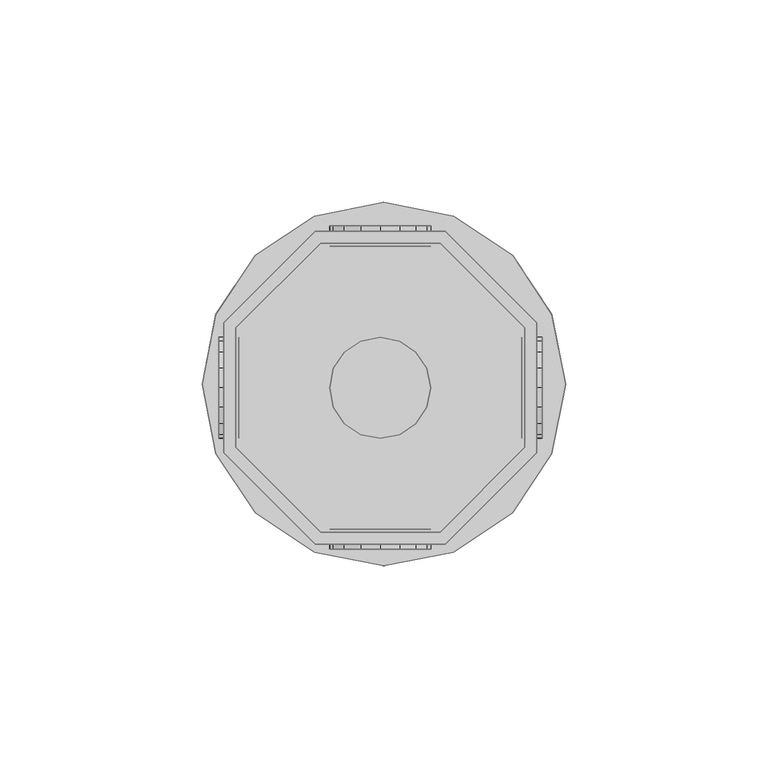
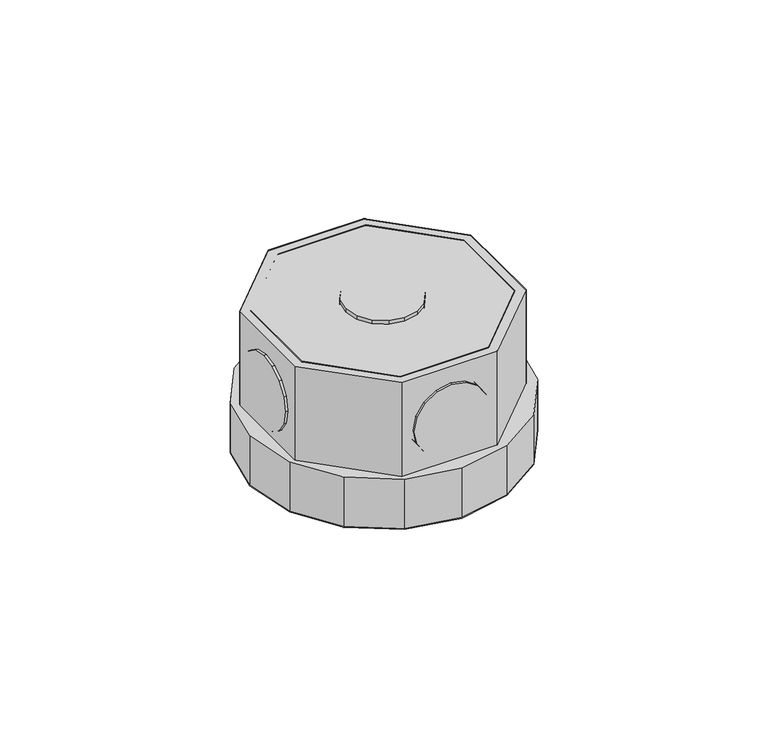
"""IFC4 building model written with IfcOpenShell, lengths in millimetres: light fixture geometry,  213070 :  213070."""

from ifc_helpers import new_model, si_unit, origin, place, context, project, spatial, triangles, source, transform, mapped, element, save


def light_fixture_4a75776b(model_context):
    return source(origin(), model_context, "Body", "Tessellation", [
        triangles([(5714.1000549, 12044.5996948, 2924.5999741), (5714.1000549, 12015.0003387, 2975.400071), (5714.1000549, 12015.0003387, 2924.5999741), (5714.1000549, 12044.5996948, 2975.400071), (5788.6001587, 12045.7996216, 2924.5999741), (5788.6001587, 12013.7004181, 2975.400071), (5788.6001587, 12013.7004181, 2924.5999741), (5788.6001587, 12045.7996216, 2975.400071), (5735.0999359, 11994.0004578, 2975.400071), (5735.0999359, 11994.0004578, 2924.5999741), (5765.8998001, 12068.5005615, 2924.5999741), (5765.8998001, 12068.5005615, 2975.400071), (5764.6998734, 11994.0004578, 2975.400071), (5764.6998734, 11994.0004578, 2924.5999741), (5733.8000153, 12068.5005615, 2924.5999741), (5733.8000153, 12068.5005615, 2975.400071), (5785.5997604, 12015.0003387, 2975.400071), (5785.5997604, 12015.0003387, 2924.5999741), (5711.100238, 12045.7996216, 2924.5999741), (5711.100238, 12045.7996216, 2975.400071), (5785.5997604, 12044.5996948, 2924.5999741), (5785.5997604, 12044.5996948, 2975.400071), (5711.100238, 12013.7004181, 2975.400071), (5711.100238, 12013.7004181, 2924.5999741), (5764.6998734, 12065.4995819, 2924.5999741), (5764.6998734, 12065.4995819, 2975.400071), (5733.8000153, 11990.9994781, 2975.400071), (5733.8000153, 11990.9994781, 2924.5999741), (5765.8998001, 11990.9994781, 2975.400071), (5735.0999359, 12065.4995819, 2975.400071), (5735.0999359, 12065.4995819, 2924.5999741), (5765.8998001, 11990.9994781, 2924.5999741), (5764.6998734, 11994.0004578, 2972.3999634), (5785.5997604, 12015.0003387, 2972.3999634), (5785.5997604, 12044.5996948, 2972.3999634), (5764.6998734, 12065.4995819, 2972.3999634), (5735.0999359, 12065.4995819, 2972.3999634), (5714.1000549, 12044.5996948, 2972.3999634), (5714.1000549, 12015.0003387, 2972.3999634), (5735.0999359, 11994.0004578, 2972.3999634), (5733.8000153, 11990.9994781, 2942.4000504), (5711.100238, 12013.7004181, 2942.4000504), (5711.100238, 12045.7996216, 2942.4000504), (5733.8000153, 12068.5005615, 2942.4000504), (5765.8998001, 12068.5005615, 2942.4000504), (5788.6001587, 12045.7996216, 2942.4000504), (5788.6001587, 12013.7004181, 2942.4000504), (5765.8998001, 11990.9994781, 2942.4000504), (5792.2999329, 12013.4004364, 2942.4000504), (5768.0002533, 11989.0995941, 2942.4000504), (5782.5999435, 11998.8001648, 2942.4000504), (5750.8001404, 11985.6998016, 2942.4000504), (5733.5000336, 11989.0995941, 2942.4000504), (5718.899762, 11998.8001648, 2942.4000504), (5709.1997726, 12013.4004364, 2942.4000504), (5705.7999802, 12030.7005432, 2942.4000504), (5709.1997726, 12047.8994934, 2942.4000504), (5733.5000336, 12072.2003357, 2942.4000504), (5718.899762, 12062.499765, 2942.4000504), (5795.7997192, 12030.7005432, 2942.4000504), (5792.2999329, 12047.8994934, 2942.4000504), (5782.5999435, 12062.499765, 2942.4000504), (5768.0002533, 12072.2003357, 2942.4000504), (5750.8001404, 12075.7001221, 2942.4000504), (5768.0002533, 11989.0995941, 2924.5999741), (5792.2999329, 12013.4004364, 2924.5999741), (5782.5999435, 11998.8001648, 2924.5999741), (5750.8001404, 11985.6998016, 2924.5999741), (5733.5000336, 11989.0995941, 2924.5999741), (5718.899762, 11998.8001648, 2924.5999741), (5709.1997726, 12013.4004364, 2924.5999741), (5705.7999802, 12030.7005432, 2924.5999741), (5709.1997726, 12047.8994934, 2924.5999741), (5733.5000336, 12072.2003357, 2924.5999741), (5718.899762, 12062.499765, 2924.5999741), (5795.7997192, 12030.7005432, 2924.5999741), (5792.2999329, 12047.8994934, 2924.5999741), (5782.5999435, 12062.499765, 2924.5999741), (5768.0002533, 12072.2003357, 2924.5999741), (5750.8001404, 12075.7001221, 2924.5999741), (5709.8997299, 12018.2001434, 2952.6000092), (5709.8997299, 12024.9997284, 2945.9001274), (5709.8997299, 12020.8999786, 2948.5999626), (5709.8997299, 12017.3001984, 2957.4000069), (5709.8997299, 12029.7994354, 2944.8998978), (5709.8997299, 12018.2001434, 2962.2000046), (5709.8997299, 12034.6003052, 2945.9001274), (5709.8997299, 12020.8999786, 2966.2000511), (5709.8997299, 12038.600061, 2948.5999626), (5709.8997299, 12024.9997284, 2968.8998863), (5709.8997299, 12041.2998962, 2952.6000092), (5709.8997299, 12029.7994354, 2969.900116), (5709.8997299, 12042.2998352, 2957.4000069), (5709.8997299, 12034.6003052, 2968.8998863), (5709.8997299, 12041.2998962, 2962.2000046), (5709.8997299, 12038.600061, 2966.2000511), (5714.9000061, 12024.9997284, 2945.9001274), (5714.9000061, 12018.2001434, 2952.6000092), (5714.9000061, 12020.8999786, 2948.5999626), (5714.9000061, 12029.7994354, 2944.8998978), (5714.9000061, 12017.3001984, 2957.4000069), (5714.9000061, 12034.6003052, 2945.9001274), (5714.9000061, 12018.2001434, 2962.2000046), (5714.9000061, 12038.600061, 2948.5999626), (5714.9000061, 12020.8999786, 2966.2000511), (5714.9000061, 12024.9997284, 2968.8998863), (5714.9000061, 12041.2998962, 2952.6000092), (5714.9000061, 12029.7994354, 2969.900116), (5714.9000061, 12042.2998352, 2957.4000069), (5714.9000061, 12034.6003052, 2968.8998863), (5714.9000061, 12041.2998962, 2962.2000046), (5714.9000061, 12038.600061, 2966.2000511), (5784.8998032, 12018.2001434, 2952.6000092), (5784.8998032, 12024.9997284, 2945.9001274), (5784.8998032, 12020.8999786, 2948.5999626), (5784.8998032, 12017.3001984, 2957.4000069), (5784.8998032, 12029.7994354, 2944.8998978), (5784.8998032, 12018.2001434, 2962.2000046), (5784.8998032, 12034.6003052, 2945.9001274), (5784.8998032, 12020.8999786, 2966.2000511), (5784.8998032, 12038.600061, 2948.5999626), (5784.8998032, 12024.9997284, 2968.8998863), (5784.8998032, 12041.2998962, 2952.6000092), (5784.8998032, 12029.7994354, 2969.900116), (5784.8998032, 12042.2998352, 2957.4000069), (5784.8998032, 12034.6003052, 2968.8998863), (5784.8998032, 12041.2998962, 2962.2000046), (5784.8998032, 12038.600061, 2966.2000511), (5789.9000793, 12024.9997284, 2945.9001274), (5789.9000793, 12018.2001434, 2952.6000092), (5789.9000793, 12020.8999786, 2948.5999626), (5789.9000793, 12029.7994354, 2944.8998978), (5789.9000793, 12017.3001984, 2957.4000069), (5789.9000793, 12034.6003052, 2945.9001274), (5789.9000793, 12018.2001434, 2962.2000046), (5789.9000793, 12038.600061, 2948.5999626), (5789.9000793, 12020.8999786, 2966.2000511), (5789.9000793, 12024.9997284, 2968.8998863), (5789.9000793, 12041.2998962, 2952.6000092), (5789.9000793, 12029.7994354, 2969.900116), (5789.9000793, 12042.2998352, 2957.4000069), (5789.9000793, 12034.6003052, 2968.8998863), (5789.9000793, 12041.2998962, 2962.2000046), (5789.9000793, 12038.600061, 2966.2000511), (5754.6999023, 11994.8004089, 2945.9001274), (5761.4000748, 11994.8004089, 2952.6000092), (5758.7002396, 11994.8004089, 2948.5999626), (5749.9001953, 11994.8004089, 2944.8998978), (5762.4000137, 11994.8004089, 2957.4000069), (5745.0999069, 11994.8004089, 2945.9001274), (5761.4000748, 11994.8004089, 2962.2000046), (5741.0001572, 11994.8004089, 2948.5999626), (5758.7002396, 11994.8004089, 2966.2000511), (5754.6999023, 11994.8004089, 2968.8998863), (5738.2997406, 11994.8004089, 2952.6000092), (5749.9001953, 11994.8004089, 2969.900116), (5737.3997955, 11994.8004089, 2957.4000069), (5745.0999069, 11994.8004089, 2968.8998863), (5738.2997406, 11994.8004089, 2962.2000046), (5741.0001572, 11994.8004089, 2966.2000511), (5761.4000748, 11989.7995514, 2952.6000092), (5754.6999023, 11989.7995514, 2945.9001274), (5758.7002396, 11989.7995514, 2948.5999626), (5762.4000137, 11989.7995514, 2957.4000069), (5749.9001953, 11989.7995514, 2944.8998978), (5761.4000748, 11989.7995514, 2962.2000046), (5745.0999069, 11989.7995514, 2945.9001274), (5758.7002396, 11989.7995514, 2966.2000511), (5741.0001572, 11989.7995514, 2948.5999626), (5754.6999023, 11989.7995514, 2968.8998863), (5738.2997406, 11989.7995514, 2952.6000092), (5749.9001953, 11989.7995514, 2969.900116), (5737.3997955, 11989.7995514, 2957.4000069), (5745.0999069, 11989.7995514, 2968.8998863), (5738.2997406, 11989.7995514, 2962.2000046), (5741.0001572, 11989.7995514, 2966.2000511), (5754.6999023, 12069.8004822, 2945.9001274), (5761.4000748, 12069.8004822, 2952.6000092), (5758.7002396, 12069.8004822, 2948.5999626), (5749.9001953, 12069.8004822, 2944.8998978), (5762.4000137, 12069.8004822, 2957.4000069), (5745.0999069, 12069.8004822, 2945.9001274), (5761.4000748, 12069.8004822, 2962.2000046), (5741.0001572, 12069.8004822, 2948.5999626), (5758.7002396, 12069.8004822, 2966.2000511), (5754.6999023, 12069.8004822, 2968.8998863), (5738.2997406, 12069.8004822, 2952.6000092), (5749.9001953, 12069.8004822, 2969.900116), (5737.3997955, 12069.8004822, 2957.4000069), (5745.0999069, 12069.8004822, 2968.8998863), (5738.2997406, 12069.8004822, 2962.2000046), (5741.0001572, 12069.8004822, 2966.2000511), (5761.4000748, 12064.7996246, 2952.6000092), (5754.6999023, 12064.7996246, 2945.9001274), (5758.7002396, 12064.7996246, 2948.5999626), (5762.4000137, 12064.7996246, 2957.4000069), (5749.9001953, 12064.7996246, 2944.8998978), (5761.4000748, 12064.7996246, 2962.2000046), (5745.0999069, 12064.7996246, 2945.9001274), (5758.7002396, 12064.7996246, 2966.2000511), (5741.0001572, 12064.7996246, 2948.5999626), (5754.6999023, 12064.7996246, 2968.8998863), (5738.2997406, 12064.7996246, 2952.6000092), (5749.9001953, 12064.7996246, 2969.900116), (5737.3997955, 12064.7996246, 2957.4000069), (5745.0999069, 12064.7996246, 2968.8998863), (5738.2997406, 12064.7996246, 2962.2000046), (5741.0001572, 12064.7996246, 2966.2000511), (5761.4000748, 12024.9997284, 2976.9999733), (5754.6999023, 12018.2001434, 2976.9999733), (5758.7002396, 12020.8999786, 2976.9999733), (5749.9001953, 12017.3001984, 2976.9999733), (5762.4000137, 12029.7994354, 2976.9999733), (5745.0999069, 12018.2001434, 2976.9999733), (5761.4000748, 12034.6003052, 2976.9999733), (5741.0001572, 12020.8999786, 2976.9999733), (5758.7002396, 12038.600061, 2976.9999733), (5738.2997406, 12024.9997284, 2976.9999733), (5754.6999023, 12041.2998962, 2976.9999733), (5737.3997955, 12029.7994354, 2976.9999733), (5749.9001953, 12042.2998352, 2976.9999733), (5738.2997406, 12034.6003052, 2976.9999733), (5745.0999069, 12041.2998962, 2976.9999733), (5741.0001572, 12038.600061, 2976.9999733), (5754.6999023, 12018.2001434, 2971.9999878), (5761.4000748, 12024.9997284, 2971.9999878), (5758.7002396, 12020.8999786, 2971.9999878), (5749.9001953, 12017.3001984, 2971.9999878), (5762.4000137, 12029.7994354, 2971.9999878), (5745.0999069, 12018.2001434, 2971.9999878), (5761.4000748, 12034.6003052, 2971.9999878), (5741.0001572, 12020.8999786, 2971.9999878), (5758.7002396, 12038.600061, 2971.9999878), (5738.2997406, 12024.9997284, 2971.9999878), (5754.6999023, 12041.2998962, 2971.9999878), (5737.3997955, 12029.7994354, 2971.9999878), (5749.9001953, 12042.2998352, 2971.9999878), (5738.2997406, 12034.6003052, 2971.9999878), (5745.0999069, 12041.2998962, 2971.9999878), (5741.0001572, 12038.600061, 2971.9999878)], [[1, 2, 3], [2, 1, 4], [5, 6, 7], [6, 5, 8], [3, 9, 10], [9, 3, 2], [11, 8, 5], [8, 11, 12], [10, 13, 14], [13, 10, 9], [15, 12, 11], [12, 15, 16], [14, 17, 18], [17, 14, 13], [19, 16, 15], [16, 19, 20], [17, 21, 18], [21, 17, 22], [23, 19, 24], [19, 23, 20], [22, 25, 21], [25, 22, 26], [27, 24, 28], [24, 27, 23], [6, 13, 29], [29, 13, 27], [27, 13, 9], [27, 9, 23], [23, 9, 2], [23, 2, 4], [23, 4, 20], [20, 4, 30], [8, 17, 6], [6, 17, 13], [17, 8, 22], [12, 22, 8], [22, 12, 26], [30, 26, 12], [16, 30, 12], [20, 30, 16], [30, 1, 31], [1, 30, 4], [6, 32, 7], [32, 6, 29], [32, 14, 7], [28, 14, 32], [14, 28, 10], [24, 10, 28], [10, 24, 3], [1, 3, 24], [19, 1, 24], [31, 1, 19], [7, 18, 5], [14, 18, 7], [5, 18, 21], [5, 21, 11], [11, 21, 25], [11, 25, 31], [11, 31, 15], [15, 31, 19], [26, 31, 25], [31, 26, 30], [29, 28, 32], [28, 29, 27], [17, 33, 34], [33, 17, 13], [35, 17, 34], [17, 35, 22], [36, 22, 35], [22, 36, 26], [37, 26, 36], [26, 37, 30], [38, 30, 37], [30, 38, 4], [2, 38, 39], [38, 2, 4], [17, 9, 13], [9, 17, 22], [9, 22, 2], [2, 22, 26], [2, 26, 4], [4, 26, 30], [13, 40, 33], [40, 13, 9], [40, 34, 33], [35, 34, 40], [35, 40, 39], [35, 39, 36], [36, 39, 38], [36, 38, 37], [9, 39, 40], [39, 9, 2], [24, 41, 28], [41, 24, 42], [19, 42, 24], [42, 19, 43], [44, 19, 15], [19, 44, 43], [45, 15, 11], [15, 45, 44], [46, 11, 5], [11, 46, 45], [47, 5, 7], [5, 47, 46], [32, 47, 7], [47, 32, 48], [28, 48, 32], [48, 28, 41], [49, 50, 51], [48, 50, 49], [50, 48, 52], [41, 52, 48], [52, 41, 53], [53, 41, 54], [42, 54, 41], [54, 42, 55], [55, 42, 43], [55, 43, 56], [56, 43, 57], [57, 43, 44], [57, 44, 58], [57, 58, 59], [47, 49, 60], [49, 47, 48], [47, 60, 46], [61, 46, 60], [46, 61, 62], [46, 62, 45], [45, 62, 63], [44, 45, 63], [44, 63, 64], [44, 64, 58], [65, 66, 67], [66, 65, 32], [68, 32, 65], [32, 68, 28], [28, 68, 69], [70, 28, 69], [28, 70, 24], [71, 24, 70], [19, 24, 71], [19, 71, 72], [73, 19, 72], [19, 73, 15], [74, 15, 73], [74, 73, 75], [76, 66, 7], [32, 7, 66], [5, 76, 7], [76, 5, 77], [77, 5, 78], [11, 78, 5], [78, 11, 79], [79, 11, 15], [79, 15, 80], [80, 15, 74], [57, 75, 73], [75, 57, 59], [56, 73, 72], [73, 56, 57], [55, 72, 71], [72, 55, 56], [54, 71, 70], [71, 54, 55], [53, 70, 69], [70, 53, 54], [52, 69, 68], [69, 52, 53], [50, 68, 65], [68, 50, 52], [51, 65, 67], [65, 51, 50], [66, 51, 67], [51, 66, 49], [76, 49, 66], [49, 76, 60], [77, 60, 76], [60, 77, 61], [78, 61, 77], [61, 78, 62], [79, 62, 78], [62, 79, 63], [80, 63, 79], [63, 80, 64], [75, 58, 74], [58, 75, 59], [74, 64, 80], [64, 74, 58], [81, 82, 83], [82, 81, 84], [85, 82, 84], [85, 84, 86], [87, 85, 86], [87, 86, 88], [87, 88, 89], [89, 88, 90], [89, 90, 91], [91, 90, 92], [91, 92, 93], [93, 92, 94], [93, 94, 95], [95, 94, 96], [97, 98, 99], [98, 97, 100], [101, 98, 100], [101, 100, 102], [103, 101, 102], [103, 102, 104], [103, 104, 105], [105, 104, 106], [106, 104, 107], [106, 107, 108], [108, 107, 109], [108, 109, 110], [110, 109, 111], [110, 111, 112], [87, 104, 102], [104, 87, 89], [85, 102, 100], [102, 85, 87], [82, 100, 97], [100, 82, 85], [83, 97, 99], [97, 83, 82], [98, 83, 99], [83, 98, 81], [101, 81, 98], [81, 101, 84], [103, 84, 101], [84, 103, 86], [105, 86, 103], [86, 105, 88], [106, 88, 105], [88, 106, 90], [108, 90, 106], [90, 108, 92], [110, 92, 108], [92, 110, 94], [112, 94, 110], [94, 112, 96], [95, 112, 111], [112, 95, 96], [93, 111, 109], [111, 93, 95], [89, 107, 104], [107, 89, 91], [91, 109, 107], [109, 91, 93], [113, 114, 115], [114, 113, 116], [117, 114, 116], [117, 116, 118], [119, 117, 118], [119, 118, 120], [119, 120, 121], [121, 120, 122], [121, 122, 123], [123, 122, 124], [123, 124, 125], [125, 124, 126], [125, 126, 127], [127, 126, 128], [129, 130, 131], [130, 129, 132], [133, 130, 132], [133, 132, 134], [135, 133, 134], [135, 134, 136], [135, 136, 137], [137, 136, 138], [138, 136, 139], [138, 139, 140], [140, 139, 141], [140, 141, 142], [142, 141, 143], [142, 143, 144], [119, 136, 134], [136, 119, 121], [117, 134, 132], [134, 117, 119], [114, 132, 129], [132, 114, 117], [115, 129, 131], [129, 115, 114], [130, 115, 131], [115, 130, 113], [133, 113, 130], [113, 133, 116], [135, 116, 133], [116, 135, 118], [137, 118, 135], [118, 137, 120], [138, 120, 137], [120, 138, 122], [140, 122, 138], [122, 140, 124], [142, 124, 140], [124, 142, 126], [144, 126, 142], [126, 144, 128], [127, 144, 143], [144, 127, 128], [125, 143, 141], [143, 125, 127], [121, 139, 136], [139, 121, 123], [123, 141, 139], [141, 123, 125], [145, 146, 147], [146, 145, 148], [149, 146, 148], [149, 148, 150], [151, 149, 150], [151, 150, 152], [151, 152, 153], [153, 152, 154], [154, 152, 155], [154, 155, 156], [156, 155, 157], [156, 157, 158], [158, 157, 159], [158, 159, 160], [161, 162, 163], [162, 161, 164], [165, 162, 164], [165, 164, 166], [167, 165, 166], [167, 166, 168], [169, 167, 168], [169, 168, 170], [169, 170, 171], [171, 170, 172], [171, 172, 173], [173, 172, 174], [173, 174, 175], [175, 174, 176], [158, 176, 174], [176, 158, 160], [156, 174, 172], [174, 156, 158], [154, 172, 170], [172, 154, 156], [153, 170, 168], [170, 153, 154], [151, 168, 166], [168, 151, 153], [149, 166, 164], [166, 149, 151], [146, 164, 161], [164, 146, 149], [147, 161, 163], [161, 147, 146], [162, 147, 163], [147, 162, 145], [165, 145, 162], [145, 165, 148], [167, 148, 165], [148, 167, 150], [169, 150, 167], [150, 169, 152], [171, 152, 169], [152, 171, 155], [173, 155, 171], [155, 173, 157], [176, 159, 175], [159, 176, 160], [175, 157, 173], [157, 175, 159], [177, 178, 179], [178, 177, 180], [181, 178, 180], [181, 180, 182], [183, 181, 182], [183, 182, 184], [183, 184, 185], [185, 184, 186], [186, 184, 187], [186, 187, 188], [188, 187, 189], [188, 189, 190], [190, 189, 191], [190, 191, 192], [193, 194, 195], [194, 193, 196], [197, 194, 196], [197, 196, 198], [199, 197, 198], [199, 198, 200], [201, 199, 200], [201, 200, 202], [201, 202, 203], [203, 202, 204], [203, 204, 205], [205, 204, 206], [205, 206, 207], [207, 206, 208], [190, 208, 206], [208, 190, 192], [188, 206, 204], [206, 188, 190], [186, 204, 202], [204, 186, 188], [185, 202, 200], [202, 185, 186], [183, 200, 198], [200, 183, 185], [181, 198, 196], [198, 181, 183], [178, 196, 193], [196, 178, 181], [179, 193, 195], [193, 179, 178], [194, 179, 195], [179, 194, 177], [197, 177, 194], [177, 197, 180], [199, 180, 197], [180, 199, 182], [201, 182, 199], [182, 201, 184], [203, 184, 201], [184, 203, 187], [205, 187, 203], [187, 205, 189], [208, 191, 207], [191, 208, 192], [207, 189, 205], [189, 207, 191], [209, 210, 211], [212, 210, 209], [212, 209, 213], [214, 212, 213], [214, 213, 215], [216, 214, 215], [216, 215, 217], [216, 217, 218], [218, 217, 219], [218, 219, 220], [220, 219, 221], [220, 221, 222], [222, 221, 223], [222, 223, 224], [225, 226, 227], [226, 225, 228], [229, 226, 228], [229, 228, 230], [231, 229, 230], [231, 230, 232], [231, 232, 233], [233, 232, 234], [233, 234, 235], [235, 234, 236], [235, 236, 237], [237, 236, 238], [237, 238, 239], [239, 238, 240], [222, 240, 238], [240, 222, 224], [220, 238, 236], [238, 220, 222], [218, 236, 234], [236, 218, 220], [216, 234, 232], [234, 216, 218], [214, 232, 230], [232, 214, 216], [212, 230, 228], [230, 212, 214], [210, 228, 225], [228, 210, 212], [211, 225, 227], [225, 211, 210], [226, 211, 227], [211, 226, 209], [229, 209, 226], [209, 229, 213], [231, 213, 229], [213, 231, 215], [233, 215, 231], [215, 233, 217], [235, 217, 233], [217, 235, 219], [237, 219, 235], [219, 237, 221], [240, 223, 239], [223, 240, 224], [239, 221, 237], [221, 239, 223]], closed=False),
    ])


if __name__ == "__main__":
    model = new_model("IFC4")
    model_context = context("Model", 3, world=origin())
    ifc_project = project(units=[si_unit("LENGTHUNIT", "METRE", prefix="MILLI")], contexts=[model_context])
    site = spatial("IfcSite", under=ifc_project)
    building = spatial("IfcBuilding", under=site)
    placement = place(None, origin())
    light_fixture_shape = light_fixture_4a75776b(model_context)
    element("IfcLightFixture", 1, ObjectType=" 213070 :  213070", at=placement, inside=building, context=model_context, shape_type="MappedRepresentation", body=[
        mapped(light_fixture_shape, transform((0.0, 0.0, 0.0), x_axis=(1.0, 0.0, 0.0), y_axis=(0.0, 1.0, 0.0), z_axis=(0.0, 0.0, 1.0))),
    ])
    save(model, "model.ifc")
